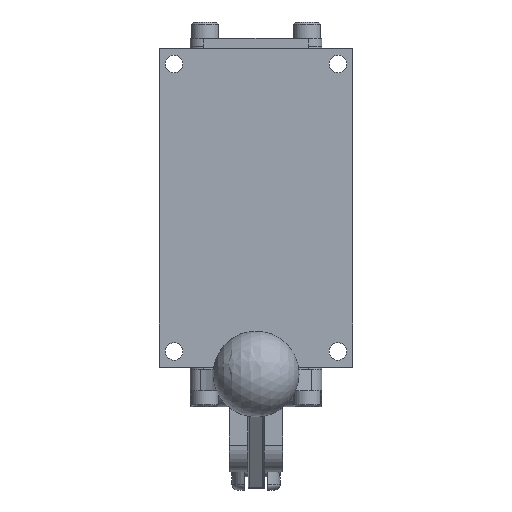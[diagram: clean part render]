
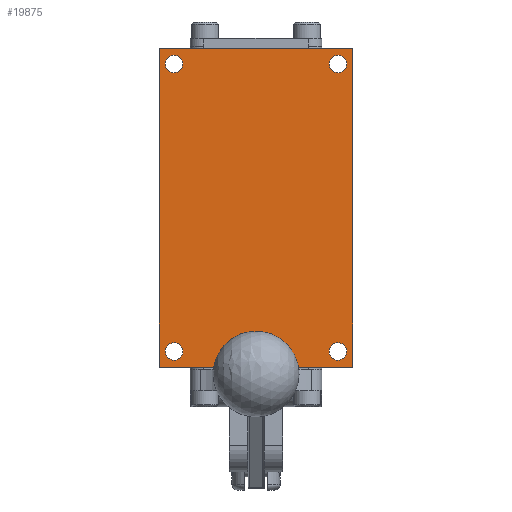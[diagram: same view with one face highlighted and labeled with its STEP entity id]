
A CAD part, front view. The second image highlights one B-rep face of the part: STEP entity #19875.
In plain terms, the highlighted planar face has unit normal (0, -1, 0).
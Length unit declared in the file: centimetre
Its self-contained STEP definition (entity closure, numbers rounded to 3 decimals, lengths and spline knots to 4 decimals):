
#2364=FACE_BOUND('',#3812,.T.);
#2365=FACE_BOUND('',#3813,.T.);
#2366=FACE_BOUND('',#3814,.T.);
#2367=FACE_BOUND('',#3815,.T.);
#2625=FACE_OUTER_BOUND('',#3811,.T.);
#3811=EDGE_LOOP('',(#14209,#14210,#14211,#14212));
#3812=EDGE_LOOP('',(#14213));
#3813=EDGE_LOOP('',(#14214));
#3814=EDGE_LOOP('',(#14215));
#3815=EDGE_LOOP('',(#14216));
#5098=CIRCLE('',#21216,0.2578);
#5099=CIRCLE('',#21217,0.2578);
#5100=CIRCLE('',#21218,0.2578);
#5101=CIRCLE('',#21219,0.2578);
#6075=LINE('',#29211,#7545);
#6076=LINE('',#29213,#7546);
#6077=LINE('',#29215,#7547);
#6078=LINE('',#29216,#7548);
#7545=VECTOR('',#23654,1.);
#7546=VECTOR('',#23655,1.);
#7547=VECTOR('',#23656,1.);
#7548=VECTOR('',#23657,1.);
#9056=VERTEX_POINT('',#29209);
#9057=VERTEX_POINT('',#29210);
#9058=VERTEX_POINT('',#29212);
#9059=VERTEX_POINT('',#29214);
#9060=VERTEX_POINT('',#29217);
#9061=VERTEX_POINT('',#29219);
#9062=VERTEX_POINT('',#29221);
#9063=VERTEX_POINT('',#29223);
#11031=EDGE_CURVE('',#9056,#9057,#6075,.T.);
#11032=EDGE_CURVE('',#9058,#9056,#6076,.T.);
#11033=EDGE_CURVE('',#9059,#9058,#6077,.T.);
#11034=EDGE_CURVE('',#9057,#9059,#6078,.T.);
#11035=EDGE_CURVE('',#9060,#9060,#5098,.T.);
#11036=EDGE_CURVE('',#9061,#9061,#5099,.T.);
#11037=EDGE_CURVE('',#9062,#9062,#5100,.T.);
#11038=EDGE_CURVE('',#9063,#9063,#5101,.T.);
#14209=ORIENTED_EDGE('',*,*,#11031,.F.);
#14210=ORIENTED_EDGE('',*,*,#11032,.F.);
#14211=ORIENTED_EDGE('',*,*,#11033,.F.);
#14212=ORIENTED_EDGE('',*,*,#11034,.F.);
#14213=ORIENTED_EDGE('',*,*,#11035,.T.);
#14214=ORIENTED_EDGE('',*,*,#11036,.T.);
#14215=ORIENTED_EDGE('',*,*,#11037,.T.);
#14216=ORIENTED_EDGE('',*,*,#11038,.T.);
#19305=PLANE('',#21215);
#19875=ADVANCED_FACE('',(#2625,#2364,#2365,#2366,#2367),#19305,.F.);
#21215=AXIS2_PLACEMENT_3D('',#29208,#23652,#23653);
#21216=AXIS2_PLACEMENT_3D('',#29218,#23658,#23659);
#21217=AXIS2_PLACEMENT_3D('',#29220,#23660,#23661);
#21218=AXIS2_PLACEMENT_3D('',#29222,#23662,#23663);
#21219=AXIS2_PLACEMENT_3D('',#29224,#23664,#23665);
#23652=DIRECTION('center_axis',(0.,1.,0.));
#23653=DIRECTION('ref_axis',(0.,0.,1.));
#23654=DIRECTION('',(0.,0.,1.));
#23655=DIRECTION('',(-1.,0.,0.));
#23656=DIRECTION('',(0.,0.,-1.));
#23657=DIRECTION('',(1.,0.,0.));
#23658=DIRECTION('center_axis',(0.,1.,0.));
#23659=DIRECTION('ref_axis',(-1.,0.,0.));
#23660=DIRECTION('center_axis',(0.,1.,0.));
#23661=DIRECTION('ref_axis',(-1.,0.,0.));
#23662=DIRECTION('center_axis',(0.,1.,0.));
#23663=DIRECTION('ref_axis',(-1.,0.,0.));
#23664=DIRECTION('center_axis',(0.,1.,0.));
#23665=DIRECTION('ref_axis',(-1.,0.,0.));
#29208=CARTESIAN_POINT('Origin',(0.,-1.6358,0.));
#29209=CARTESIAN_POINT('',(-2.8575,-1.6358,-4.7104));
#29210=CARTESIAN_POINT('',(-2.8575,-1.6358,4.7104));
#29211=CARTESIAN_POINT('',(-2.8575,-1.6358,-4.7104));
#29212=CARTESIAN_POINT('',(2.8575,-1.6358,-4.7104));
#29213=CARTESIAN_POINT('',(2.8575,-1.6358,-4.7104));
#29214=CARTESIAN_POINT('',(2.8575,-1.6358,4.7104));
#29215=CARTESIAN_POINT('',(2.8575,-1.6358,4.7104));
#29216=CARTESIAN_POINT('',(-2.8575,-1.6358,4.7104));
#29217=CARTESIAN_POINT('',(-2.1628,-1.6358,-4.2469));
#29218=CARTESIAN_POINT('Origin',(-2.4206,-1.6358,-4.2469));
#29219=CARTESIAN_POINT('',(-2.1628,-1.6358,4.2469));
#29220=CARTESIAN_POINT('Origin',(-2.4206,-1.6358,4.2469));
#29221=CARTESIAN_POINT('',(2.6784,-1.6358,-4.2469));
#29222=CARTESIAN_POINT('Origin',(2.4206,-1.6358,-4.2469));
#29223=CARTESIAN_POINT('',(2.6784,-1.6358,4.2469));
#29224=CARTESIAN_POINT('Origin',(2.4206,-1.6358,4.2469));
